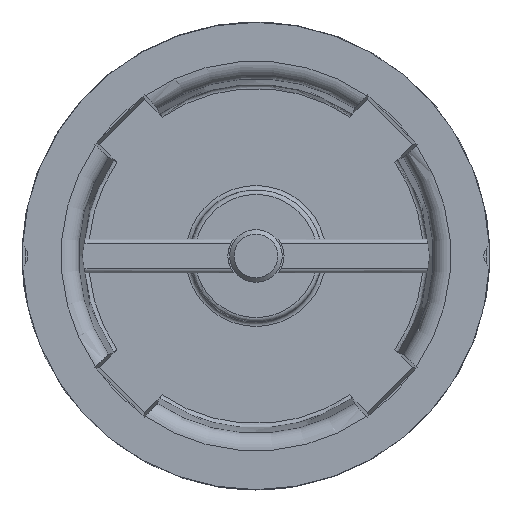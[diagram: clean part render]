
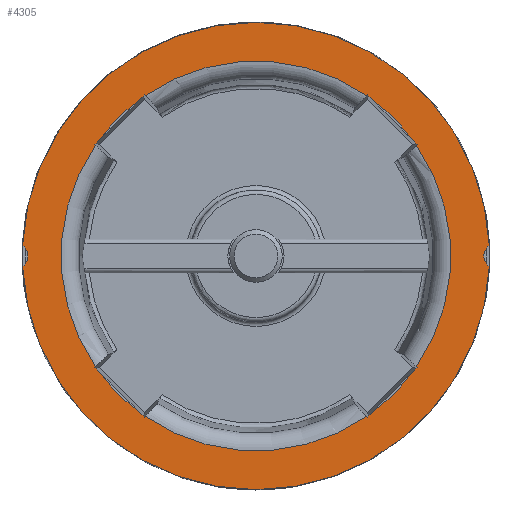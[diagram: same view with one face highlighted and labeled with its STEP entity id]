
A CAD part, front view. The second image highlights one B-rep face of the part: STEP entity #4305.
In plain terms, the highlighted planar face has unit normal (0, -1, 0).
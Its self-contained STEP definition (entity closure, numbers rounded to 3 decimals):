
#223=PLANE('',#4541);
#416=LINE('',#6208,#623);
#417=LINE('',#6210,#624);
#418=LINE('',#6214,#625);
#419=LINE('',#6216,#626);
#420=LINE('',#6220,#627);
#421=LINE('',#6222,#628);
#422=LINE('',#6226,#629);
#423=LINE('',#6228,#630);
#424=LINE('',#6232,#631);
#425=LINE('',#6234,#632);
#426=LINE('',#6238,#633);
#427=LINE('',#6240,#634);
#428=LINE('',#6244,#635);
#429=LINE('',#6246,#636);
#430=LINE('',#6250,#637);
#431=LINE('',#6252,#638);
#623=VECTOR('',#5074,1000.);
#624=VECTOR('',#5075,1000.);
#625=VECTOR('',#5078,1000.);
#626=VECTOR('',#5079,1000.);
#627=VECTOR('',#5082,1000.);
#628=VECTOR('',#5083,1000.);
#629=VECTOR('',#5086,1000.);
#630=VECTOR('',#5087,1000.);
#631=VECTOR('',#5090,1000.);
#632=VECTOR('',#5091,1000.);
#633=VECTOR('',#5094,1000.);
#634=VECTOR('',#5095,1000.);
#635=VECTOR('',#5098,1000.);
#636=VECTOR('',#5099,1000.);
#637=VECTOR('',#5102,1000.);
#638=VECTOR('',#5103,1000.);
#998=ORIENTED_EDGE('',*,*,#1877,.F.);
#999=ORIENTED_EDGE('',*,*,#1878,.T.);
#1000=ORIENTED_EDGE('',*,*,#1879,.T.);
#1001=ORIENTED_EDGE('',*,*,#1880,.F.);
#1002=ORIENTED_EDGE('',*,*,#1881,.T.);
#1003=ORIENTED_EDGE('',*,*,#1882,.T.);
#1004=ORIENTED_EDGE('',*,*,#1883,.F.);
#1005=ORIENTED_EDGE('',*,*,#1884,.T.);
#1006=ORIENTED_EDGE('',*,*,#1885,.T.);
#1007=ORIENTED_EDGE('',*,*,#1886,.F.);
#1008=ORIENTED_EDGE('',*,*,#1887,.T.);
#1009=ORIENTED_EDGE('',*,*,#1888,.T.);
#1010=ORIENTED_EDGE('',*,*,#1889,.F.);
#1011=ORIENTED_EDGE('',*,*,#1890,.T.);
#1012=ORIENTED_EDGE('',*,*,#1891,.T.);
#1013=ORIENTED_EDGE('',*,*,#1892,.F.);
#1014=ORIENTED_EDGE('',*,*,#1893,.T.);
#1015=ORIENTED_EDGE('',*,*,#1894,.T.);
#1016=ORIENTED_EDGE('',*,*,#1895,.F.);
#1017=ORIENTED_EDGE('',*,*,#1896,.T.);
#1018=ORIENTED_EDGE('',*,*,#1897,.T.);
#1019=ORIENTED_EDGE('',*,*,#1898,.F.);
#1020=ORIENTED_EDGE('',*,*,#1899,.T.);
#1021=ORIENTED_EDGE('',*,*,#1900,.T.);
#1022=ORIENTED_EDGE('',*,*,#1901,.T.);
#1023=ORIENTED_EDGE('',*,*,#1902,.T.);
#1024=ORIENTED_EDGE('',*,*,#1661,.T.);
#1025=ORIENTED_EDGE('',*,*,#1903,.T.);
#1661=EDGE_CURVE('',#2133,#2134,#2448,.T.);
#1877=EDGE_CURVE('',#2305,#2306,#2499,.T.);
#1878=EDGE_CURVE('',#2305,#2307,#416,.T.);
#1879=EDGE_CURVE('',#2307,#2308,#417,.T.);
#1880=EDGE_CURVE('',#2309,#2308,#2500,.T.);
#1881=EDGE_CURVE('',#2309,#2310,#418,.T.);
#1882=EDGE_CURVE('',#2310,#2311,#419,.T.);
#1883=EDGE_CURVE('',#2312,#2311,#2501,.T.);
#1884=EDGE_CURVE('',#2312,#2313,#420,.T.);
#1885=EDGE_CURVE('',#2313,#2314,#421,.T.);
#1886=EDGE_CURVE('',#2315,#2314,#2502,.T.);
#1887=EDGE_CURVE('',#2315,#2316,#422,.T.);
#1888=EDGE_CURVE('',#2316,#2317,#423,.T.);
#1889=EDGE_CURVE('',#2318,#2317,#2503,.T.);
#1890=EDGE_CURVE('',#2318,#2319,#424,.T.);
#1891=EDGE_CURVE('',#2319,#2320,#425,.T.);
#1892=EDGE_CURVE('',#2321,#2320,#2504,.T.);
#1893=EDGE_CURVE('',#2321,#2322,#426,.T.);
#1894=EDGE_CURVE('',#2322,#2323,#427,.T.);
#1895=EDGE_CURVE('',#2324,#2323,#2505,.T.);
#1896=EDGE_CURVE('',#2324,#2325,#428,.T.);
#1897=EDGE_CURVE('',#2325,#2326,#429,.T.);
#1898=EDGE_CURVE('',#2327,#2326,#2506,.T.);
#1899=EDGE_CURVE('',#2327,#2328,#430,.T.);
#1900=EDGE_CURVE('',#2328,#2306,#431,.T.);
#1901=EDGE_CURVE('',#2329,#2330,#2507,.T.);
#1902=EDGE_CURVE('',#2330,#2133,#2508,.T.);
#1903=EDGE_CURVE('',#2134,#2329,#2509,.T.);
#2133=VERTEX_POINT('',#5619);
#2134=VERTEX_POINT('',#5620);
#2305=VERTEX_POINT('',#6206);
#2306=VERTEX_POINT('',#6207);
#2307=VERTEX_POINT('',#6209);
#2308=VERTEX_POINT('',#6211);
#2309=VERTEX_POINT('',#6213);
#2310=VERTEX_POINT('',#6215);
#2311=VERTEX_POINT('',#6217);
#2312=VERTEX_POINT('',#6219);
#2313=VERTEX_POINT('',#6221);
#2314=VERTEX_POINT('',#6223);
#2315=VERTEX_POINT('',#6225);
#2316=VERTEX_POINT('',#6227);
#2317=VERTEX_POINT('',#6229);
#2318=VERTEX_POINT('',#6231);
#2319=VERTEX_POINT('',#6233);
#2320=VERTEX_POINT('',#6235);
#2321=VERTEX_POINT('',#6237);
#2322=VERTEX_POINT('',#6239);
#2323=VERTEX_POINT('',#6241);
#2324=VERTEX_POINT('',#6243);
#2325=VERTEX_POINT('',#6245);
#2326=VERTEX_POINT('',#6247);
#2327=VERTEX_POINT('',#6249);
#2328=VERTEX_POINT('',#6251);
#2329=VERTEX_POINT('',#6254);
#2330=VERTEX_POINT('',#6255);
#2448=CIRCLE('',#4448,26.65);
#2499=CIRCLE('',#4542,22.231);
#2500=CIRCLE('',#4543,22.231);
#2501=CIRCLE('',#4544,22.231);
#2502=CIRCLE('',#4545,22.231);
#2503=CIRCLE('',#4546,22.231);
#2504=CIRCLE('',#4547,22.231);
#2505=CIRCLE('',#4548,22.231);
#2506=CIRCLE('',#4549,22.231);
#2507=CIRCLE('',#4550,26.65);
#2508=CIRCLE('',#4551,1.5);
#2509=CIRCLE('',#4552,1.5);
#2635=EDGE_LOOP('',(#998,#999,#1000,#1001,#1002,#1003,#1004,#1005,#1006,
#1007,#1008,#1009,#1010,#1011,#1012,#1013,#1014,#1015,#1016,#1017,#1018,
#1019,#1020,#1021));
#2636=EDGE_LOOP('',(#1022,#1023,#1024,#1025));
#2832=FACE_BOUND('',#2635,.T.);
#2833=FACE_BOUND('',#2636,.T.);
#4305=ADVANCED_FACE('',(#2832,#2833),#223,.F.);
#4448=AXIS2_PLACEMENT_3D('',#5618,#4771,#4772);
#4541=AXIS2_PLACEMENT_3D('',#6204,#5070,#5071);
#4542=AXIS2_PLACEMENT_3D('',#6205,#5072,#5073);
#4543=AXIS2_PLACEMENT_3D('',#6212,#5076,#5077);
#4544=AXIS2_PLACEMENT_3D('',#6218,#5080,#5081);
#4545=AXIS2_PLACEMENT_3D('',#6224,#5084,#5085);
#4546=AXIS2_PLACEMENT_3D('',#6230,#5088,#5089);
#4547=AXIS2_PLACEMENT_3D('',#6236,#5092,#5093);
#4548=AXIS2_PLACEMENT_3D('',#6242,#5096,#5097);
#4549=AXIS2_PLACEMENT_3D('',#6248,#5100,#5101);
#4550=AXIS2_PLACEMENT_3D('',#6253,#5104,#5105);
#4551=AXIS2_PLACEMENT_3D('',#6256,#5106,#5107);
#4552=AXIS2_PLACEMENT_3D('',#6257,#5108,#5109);
#4771=DIRECTION('',(0.,-1.,0.));
#4772=DIRECTION('',(0.,0.,-1.));
#5070=DIRECTION('',(0.,1.,0.));
#5071=DIRECTION('',(0.,0.,1.));
#5072=DIRECTION('',(0.,-1.,0.));
#5073=DIRECTION('',(1.,0.,0.));
#5074=DIRECTION('',(0.707,0.,-0.707));
#5075=DIRECTION('',(-0.707,0.,-0.707));
#5076=DIRECTION('',(0.,-1.,0.));
#5077=DIRECTION('',(1.,0.,0.));
#5078=DIRECTION('',(-0.707,0.,-0.707));
#5079=DIRECTION('',(-0.707,0.,0.707));
#5080=DIRECTION('',(0.,-1.,0.));
#5081=DIRECTION('',(1.,0.,0.));
#5082=DIRECTION('',(-0.707,0.,-0.707));
#5083=DIRECTION('',(-0.707,0.,0.707));
#5084=DIRECTION('',(0.,-1.,0.));
#5085=DIRECTION('',(1.,0.,0.));
#5086=DIRECTION('',(-0.707,0.,0.707));
#5087=DIRECTION('',(0.707,0.,0.707));
#5088=DIRECTION('',(0.,-1.,0.));
#5089=DIRECTION('',(1.,0.,0.));
#5090=DIRECTION('',(-0.707,0.,0.707));
#5091=DIRECTION('',(0.707,0.,0.707));
#5092=DIRECTION('',(0.,-1.,0.));
#5093=DIRECTION('',(1.,0.,0.));
#5094=DIRECTION('',(0.707,0.,0.707));
#5095=DIRECTION('',(0.707,0.,-0.707));
#5096=DIRECTION('',(0.,-1.,0.));
#5097=DIRECTION('',(1.,0.,0.));
#5098=DIRECTION('',(0.707,0.,0.707));
#5099=DIRECTION('',(0.707,0.,-0.707));
#5100=DIRECTION('',(0.,-1.,0.));
#5101=DIRECTION('',(1.,0.,0.));
#5102=DIRECTION('',(0.707,0.,-0.707));
#5103=DIRECTION('',(-0.707,0.,-0.707));
#5104=DIRECTION('',(0.,-1.,0.));
#5105=DIRECTION('',(0.,0.,-1.));
#5106=DIRECTION('',(0.,1.,0.));
#5107=DIRECTION('',(1.,0.,0.));
#5108=DIRECTION('',(0.,1.,0.));
#5109=DIRECTION('',(1.,0.,0.));
#5618=CARTESIAN_POINT('',(0.,0.,0.));
#5619=CARTESIAN_POINT('',(-26.622,0.,-1.216));
#5620=CARTESIAN_POINT('',(26.622,0.,-1.216));
#6204=CARTESIAN_POINT('',(26.65,0.,0.));
#6205=CARTESIAN_POINT('',(0.,0.,0.));
#6206=CARTESIAN_POINT('',(18.292,0.,-12.635));
#6207=CARTESIAN_POINT('',(18.292,0.,12.635));
#6208=CARTESIAN_POINT('',(5.657,0.,0.));
#6209=CARTESIAN_POINT('',(18.385,0.,-12.728));
#6210=CARTESIAN_POINT('',(18.385,0.,-12.728));
#6211=CARTESIAN_POINT('',(17.818,0.,-13.294));
#6212=CARTESIAN_POINT('',(0.,0.,0.));
#6213=CARTESIAN_POINT('',(13.294,0.,-17.818));
#6214=CARTESIAN_POINT('',(18.385,0.,-12.728));
#6215=CARTESIAN_POINT('',(12.728,0.,-18.385));
#6216=CARTESIAN_POINT('',(12.728,0.,-18.385));
#6217=CARTESIAN_POINT('',(12.635,0.,-18.292));
#6218=CARTESIAN_POINT('',(0.,0.,0.));
#6219=CARTESIAN_POINT('',(-12.635,0.,-18.292));
#6220=CARTESIAN_POINT('',(0.,0.,-5.657));
#6221=CARTESIAN_POINT('',(-12.728,0.,-18.385));
#6222=CARTESIAN_POINT('',(-12.728,0.,-18.385));
#6223=CARTESIAN_POINT('',(-13.294,0.,-17.818));
#6224=CARTESIAN_POINT('',(0.,0.,0.));
#6225=CARTESIAN_POINT('',(-17.818,0.,-13.294));
#6226=CARTESIAN_POINT('',(-12.728,0.,-18.385));
#6227=CARTESIAN_POINT('',(-18.385,0.,-12.728));
#6228=CARTESIAN_POINT('',(-18.385,0.,-12.728));
#6229=CARTESIAN_POINT('',(-18.292,0.,-12.635));
#6230=CARTESIAN_POINT('',(0.,0.,0.));
#6231=CARTESIAN_POINT('',(-18.292,0.,12.635));
#6232=CARTESIAN_POINT('',(-5.657,0.,0.));
#6233=CARTESIAN_POINT('',(-18.385,0.,12.728));
#6234=CARTESIAN_POINT('',(-18.385,0.,12.728));
#6235=CARTESIAN_POINT('',(-17.818,0.,13.294));
#6236=CARTESIAN_POINT('',(0.,0.,0.));
#6237=CARTESIAN_POINT('',(-13.294,0.,17.818));
#6238=CARTESIAN_POINT('',(-18.385,0.,12.728));
#6239=CARTESIAN_POINT('',(-12.728,0.,18.385));
#6240=CARTESIAN_POINT('',(-12.728,0.,18.385));
#6241=CARTESIAN_POINT('',(-12.635,0.,18.292));
#6242=CARTESIAN_POINT('',(0.,0.,0.));
#6243=CARTESIAN_POINT('',(12.635,0.,18.292));
#6244=CARTESIAN_POINT('',(0.,0.,5.657));
#6245=CARTESIAN_POINT('',(12.728,0.,18.385));
#6246=CARTESIAN_POINT('',(12.728,0.,18.385));
#6247=CARTESIAN_POINT('',(13.294,0.,17.818));
#6248=CARTESIAN_POINT('',(0.,0.,0.));
#6249=CARTESIAN_POINT('',(17.818,0.,13.294));
#6250=CARTESIAN_POINT('',(12.728,0.,18.385));
#6251=CARTESIAN_POINT('',(18.385,0.,12.728));
#6252=CARTESIAN_POINT('',(18.385,0.,12.728));
#6253=CARTESIAN_POINT('',(0.,0.,0.));
#6254=CARTESIAN_POINT('',(26.622,0.,1.216));
#6255=CARTESIAN_POINT('',(-26.622,0.,1.216));
#6256=CARTESIAN_POINT('',(-27.5,0.,0.));
#6257=CARTESIAN_POINT('',(27.5,0.,0.));
